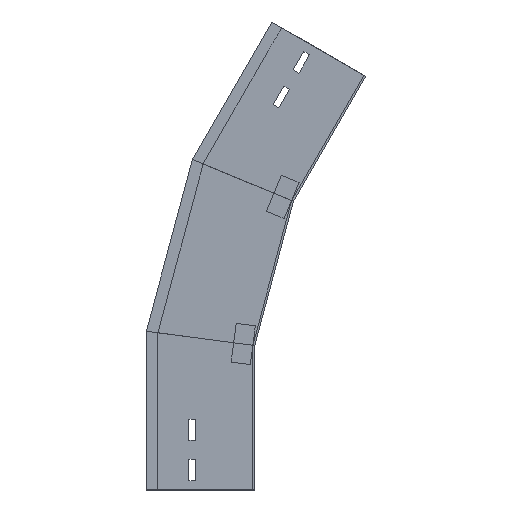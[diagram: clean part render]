
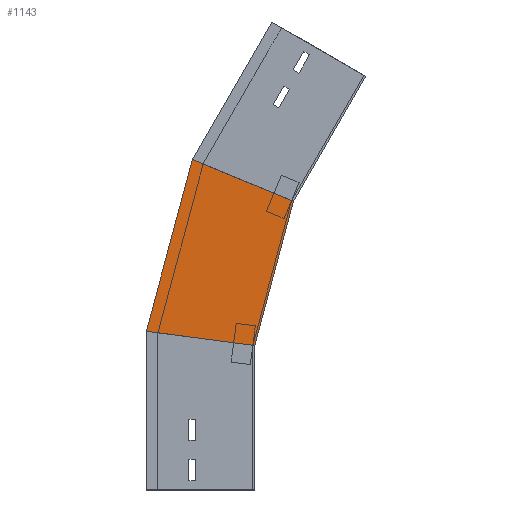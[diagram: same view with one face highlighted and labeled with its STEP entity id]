
A CAD part, left-side view. The second image highlights one B-rep face of the part: STEP entity #1143.
In plain terms, the highlighted planar face has unit normal (-1, 0, 0) as drawn and (1, 0, 0) by its records, which use the part's own axes.
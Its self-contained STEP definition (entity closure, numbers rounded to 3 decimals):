
#58 = LINE ( 'NONE', #643, #393 ) ;
#85 = CARTESIAN_POINT ( 'NONE',  ( 0., -19.411, 147.444 ) ) ;
#96 = EDGE_CURVE ( 'NONE', #1447, #1043, #1352, .T. ) ;
#97 = CARTESIAN_POINT ( 'NONE',  ( 0., 64.716, 343.142 ) ) ;
#131 = VECTOR ( 'NONE', #317, 1000. ) ;
#133 = AXIS2_PLACEMENT_3D ( 'NONE', #655, #311, #413 ) ;
#135 = EDGE_CURVE ( 'NONE', #1332, #1043, #835, .T. ) ;
#204 = CARTESIAN_POINT ( 'NONE',  ( 0., 112.5, 164.811 ) ) ;
#254 = VECTOR ( 'NONE', #1231, 1000. ) ;
#311 = DIRECTION ( 'NONE',  ( 1., 0., 0. ) ) ;
#317 = DIRECTION ( 'NONE',  ( 0., -0.991, -0.131 ) ) ;
#393 = VECTOR ( 'NONE', #1003, 1000. ) ;
#413 = DIRECTION ( 'NONE',  ( 0., 0., -1. ) ) ;
#482 = EDGE_CURVE ( 'NONE', #591, #1447, #58, .T. ) ;
#500 = DIRECTION ( 'NONE',  ( 0., -0.259, 0.966 ) ) ;
#547 = ORIENTED_EDGE ( 'NONE', *, *, #482, .T. ) ;
#567 = EDGE_CURVE ( 'NONE', #591, #1332, #890, .T. ) ;
#591 = VERTEX_POINT ( 'NONE', #204 ) ;
#643 = CARTESIAN_POINT ( 'NONE',  ( 0., 112.909, 163.284 ) ) ;
#655 = CARTESIAN_POINT ( 'NONE',  ( 0., 4.243, 134.167 ) ) ;
#766 = CARTESIAN_POINT ( 'NONE',  ( 0., -60.785, 291.157 ) ) ;
#818 = ORIENTED_EDGE ( 'NONE', *, *, #96, .T. ) ;
#835 = LINE ( 'NONE', #1088, #1063 ) ;
#890 = LINE ( 'NONE', #85, #131 ) ;
#1003 = DIRECTION ( 'NONE',  ( 0., -0.259, 0.966 ) ) ;
#1043 = VERTEX_POINT ( 'NONE', #1458 ) ;
#1063 = VECTOR ( 'NONE', #500, 1000. ) ;
#1088 = CARTESIAN_POINT ( 'NONE',  ( 0., 4.243, 134.167 ) ) ;
#1125 = CARTESIAN_POINT ( 'NONE',  ( 0., 0., 150. ) ) ;
#1143 = ADVANCED_FACE ( 'NONE', ( #1470 ), #1224, .T. ) ;
#1224 = PLANE ( 'NONE',  #133 ) ;
#1231 = DIRECTION ( 'NONE',  ( 0., -0.924, -0.383 ) ) ;
#1234 = ORIENTED_EDGE ( 'NONE', *, *, #135, .F. ) ;
#1236 = ORIENTED_EDGE ( 'NONE', *, *, #567, .F. ) ;
#1257 = EDGE_LOOP ( 'NONE', ( #547, #818, #1234, #1236 ) ) ;
#1332 = VERTEX_POINT ( 'NONE', #1125 ) ;
#1352 = LINE ( 'NONE', #766, #254 ) ;
#1447 = VERTEX_POINT ( 'NONE', #97 ) ;
#1458 = CARTESIAN_POINT ( 'NONE',  ( 0., -40.117, 299.719 ) ) ;
#1470 = FACE_OUTER_BOUND ( 'NONE', #1257, .T. ) ;
